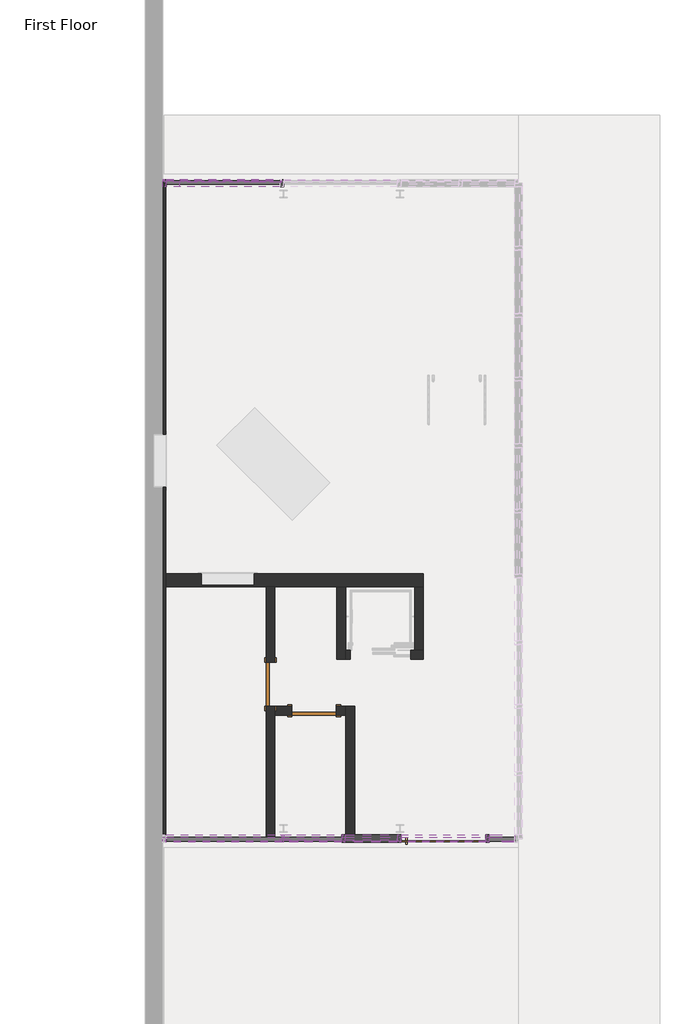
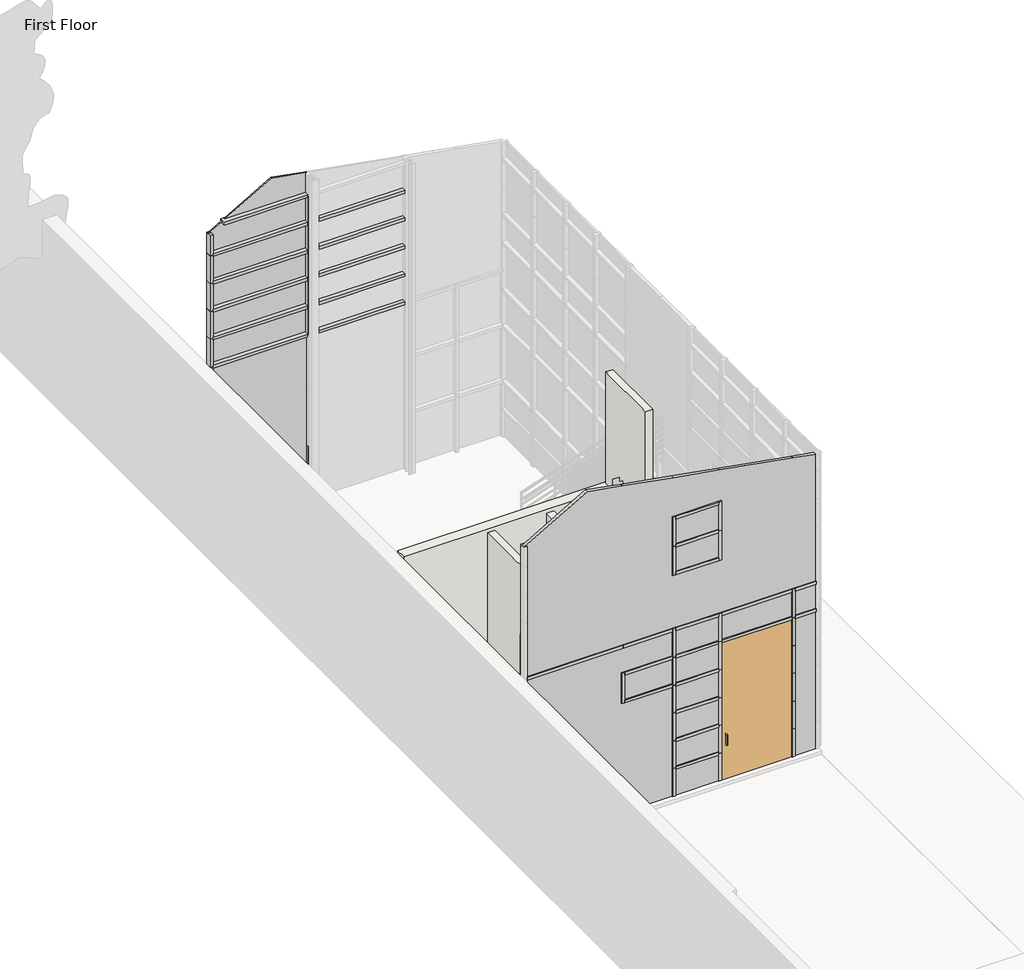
# One storey, part 3 of 9: 65 members, 21 plates, 8 walls, 3 doors.
"""IFC4 building model written with IfcOpenShell, lengths in millimetres."""

from ifc_helpers import new_model, si_unit, origin, place, context, project, spatial, faceted_brep, transform, mapped, element, save
from components import curtain_wall_sgl_glass_curtain_wall_sgl_glass_wood_e1d2974b, door_059fdd7e, rectangular_mullion_rectangular_mullion_1_99cf9c75, rectangular_mullion_rectangular_mullion_1_3a68a7ba, rectangular_mullion_rectangular_mullion_1_0b666476, rectangular_mullion_rectangular_mullion_1_6652bda1, rectangular_mullion_rectangular_mullion_1_04191cc5, rectangular_mullion_rectangular_mullion_1_d7e0bba1, rectangular_mullion_rectangular_mullion_1_6e77e263, rectangular_mullion_rectangular_mullion_1_51170729, rectangular_mullion_rectangular_mullion_1_2b49869a, rectangular_mullion_rectangular_mullion_1_02de63bf, rectangular_mullion_rectangular_mullion_1_47bfaf8a, rectangular_mullion_rectangular_mullion_1_505fbe18, rectangular_mullion_rectangular_mullion_1_75074519, rectangular_mullion_rectangular_mullion_1_ea211896, rectangular_mullion_rectangular_mullion_1_b5f2627a, rectangular_mullion_rectangular_mullion_1_894628af, rectangular_mullion_rectangular_mullion_1_e0487b50, rectangular_mullion_rectangular_mullion_1_73fada49, rectangular_mullion_rectangular_mullion_1_c5a7d1f2, system_panel_glazed_eecd68d4, system_panel_glazed_906e36bb, system_panel_glazed_cde72c19, system_panel_glazed_1e1b58fe, system_panel_glazed_c96e4c1c, system_panel_glazed_f681b886, system_panel_glazed_68a4d442, system_panel_solid_black_577d62a5, system_panel_solid_white_c18d295d, system_panel_solid_white_665c4a0c, system_panel_solid_white_d1d938a1, system_panel_solid_white_siding_d3e9cc3a, system_panel_wood_dark_5486a5ac, system_panel_wood_dark_d58a65b9, system_panel_wood_dark_6d0ec728

model = new_model("IFC4")

# Units and contexts
model_context = context("Model", 3, world=origin())
ifc_project = project(units=[si_unit("LENGTHUNIT", "METRE", prefix="MILLI")], contexts=[model_context])

# Site, building, storey
site = spatial("IfcSite", under=ifc_project)
building = spatial("IfcBuilding", under=site)
storey = spatial("IfcBuildingStorey", under=building, Name="First Floor", Elevation=0.0)

# Doors
placement = place(None, origin())
curtain_wall_sgl_glass_curtain_wall_sgl_glass_wood_shape = curtain_wall_sgl_glass_curtain_wall_sgl_glass_wood_e1d2974b(model_context)
element("IfcDoor", 1, ObjectType="Curtain Wall Sgl Glass : Curtain Wall Sgl Glass - Wood", at=placement, inside=storey, context=model_context, shape_type="MappedRepresentation", body=[
    mapped(curtain_wall_sgl_glass_curtain_wall_sgl_glass_wood_shape, transform((-1283.9651664, 24371.1084583, 0.0), x_axis=(1.0, 0.0, 0.0), y_axis=(0.0, 1.0, 0.0), z_axis=(0.0, 0.0, 1.0))),
])
door_shape = door_059fdd7e(model_context)
element("IfcDoor", 2, ObjectType="Single-Flush : 30\" x 80\"", at=placement, inside=storey, context=model_context, shape_type="MappedRepresentation", body=[
    mapped(door_shape, transform((-4258.9401664, 27025.4084583, 0.0), x_axis=(0.0, 1.0, 0.0), y_axis=(-1.0, 0.0, 0.0), z_axis=(0.0, 0.0, 1.0))),
])
element("IfcDoor", 3, ObjectType="Single-Flush : 30\" x 80\"", at=placement, inside=storey, context=model_context, shape_type="MappedRepresentation", body=[
    mapped(door_shape, transform((-3508.5818331, 26568.2084583, 0.0), x_axis=(-1.0, 0.0, 0.0), y_axis=(0.0, -1.0, 0.0), z_axis=(0.0, 0.0, 1.0))),
])

# Members
rectangular_mullion_rectangular_mullion_1_shape = rectangular_mullion_rectangular_mullion_1_99cf9c75(model_context)
element("IfcMember", 4, ObjectType="Rectangular Mullion : Rectangular Mullion 1", at=placement, inside=storey, context=model_context, shape_type="MappedRepresentation", body=[
    mapped(rectangular_mullion_rectangular_mullion_1_shape, transform((-4062.0901664, 35648.7084583, 3647.5475583), x_axis=(-1.0, 0.0, 0.0), y_axis=(0.0, 1.0, 0.0), z_axis=(0.0, 0.0, -1.0))),
])
rectangular_mullion_rectangular_mullion_1_2_shape = rectangular_mullion_rectangular_mullion_1_3a68a7ba(model_context)
element("IfcMember", 5, ObjectType="Rectangular Mullion : Rectangular Mullion 1", at=placement, inside=storey, context=model_context, shape_type="MappedRepresentation", body=[
    mapped(rectangular_mullion_rectangular_mullion_1_2_shape, transform((-5819.2819941, 35648.7084583, 6705.6), x_axis=(0.0, 0.0, 1.0), y_axis=(0.0, 1.0, 0.0), z_axis=(-1.0, 0.0, 0.0))),
])
rectangular_mullion_rectangular_mullion_1_3_shape = rectangular_mullion_rectangular_mullion_1_0b666476(model_context)
element("IfcMember", 6, ObjectType="Rectangular Mullion : Rectangular Mullion 1", at=placement, inside=storey, context=model_context, shape_type="MappedRepresentation", body=[
    mapped(rectangular_mullion_rectangular_mullion_1_3_shape, transform((-3001.6401664, 24371.1084583, 3048.0), x_axis=(1.0, 0.0, 0.0), y_axis=(0.0, -1.0, 0.0), z_axis=(0.0, 0.0, -1.0))),
])
element("IfcMember", 7, ObjectType="Rectangular Mullion : Rectangular Mullion 1", at=placement, inside=storey, context=model_context, shape_type="MappedRepresentation", body=[
    mapped(rectangular_mullion_rectangular_mullion_1_3_shape, transform((-2042.7901664, 24371.1084583, 3048.0), x_axis=(1.0, 0.0, 0.0), y_axis=(0.0, -1.0, 0.0), z_axis=(0.0, 0.0, -1.0))),
])
element("IfcMember", 8, ObjectType="Rectangular Mullion : Rectangular Mullion 1", at=placement, inside=storey, context=model_context, shape_type="MappedRepresentation", body=[
    mapped(rectangular_mullion_rectangular_mullion_1_3_shape, transform((-525.1401664, 24371.1084583, 3048.0), x_axis=(1.0, 0.0, 0.0), y_axis=(0.0, -1.0, 0.0), z_axis=(0.0, 0.0, -1.0))),
])
rectangular_mullion_rectangular_mullion_1_4_shape = rectangular_mullion_rectangular_mullion_1_6652bda1(model_context)
element("IfcMember", 9, ObjectType="Rectangular Mullion : Rectangular Mullion 1", at=placement, inside=storey, context=model_context, shape_type="MappedRepresentation", body=[
    mapped(rectangular_mullion_rectangular_mullion_1_4_shape, transform((-6113.1401664, 35648.7084583, 2438.4), x_axis=(-1.0, 0.0, 0.0), y_axis=(0.0, 1.0, 0.0), z_axis=(0.0, 0.0, -1.0))),
])
rectangular_mullion_rectangular_mullion_1_5_shape = rectangular_mullion_rectangular_mullion_1_04191cc5(model_context)
element("IfcMember", 10, ObjectType="Rectangular Mullion : Rectangular Mullion 1", at=placement, inside=storey, context=model_context, shape_type="MappedRepresentation", body=[
    mapped(rectangular_mullion_rectangular_mullion_1_5_shape, transform((-6113.1401664, 35648.7084583, 6096.0), x_axis=(-1.0, 0.0, 0.0), y_axis=(0.0, 1.0, 0.0), z_axis=(0.0, 0.0, -1.0))),
])
rectangular_mullion_rectangular_mullion_1_6_shape = rectangular_mullion_rectangular_mullion_1_d7e0bba1(model_context)
element("IfcMember", 11, ObjectType="Rectangular Mullion : Rectangular Mullion 1", at=placement, inside=storey, context=model_context, shape_type="MappedRepresentation", body=[
    mapped(rectangular_mullion_rectangular_mullion_1_6_shape, transform((-6113.1401664, 35648.7084583, 3647.5475583), x_axis=(-1.0, 0.0, 0.0), y_axis=(0.0, 1.0, 0.0), z_axis=(0.0, 0.0, -1.0))),
])
rectangular_mullion_rectangular_mullion_1_7_shape = rectangular_mullion_rectangular_mullion_1_6e77e263(model_context)
element("IfcMember", 12, ObjectType="Rectangular Mullion : Rectangular Mullion 1", at=placement, inside=storey, context=model_context, shape_type="MappedRepresentation", body=[
    mapped(rectangular_mullion_rectangular_mullion_1_7_shape, transform((-2042.7901664, 24371.1084583, 0.0), x_axis=(1.0, 0.0, 0.0), y_axis=(0.0, -1.0, 0.0), z_axis=(0.0, 0.0, -1.0))),
])
element("IfcMember", 13, ObjectType="Rectangular Mullion : Rectangular Mullion 1", at=placement, inside=storey, context=model_context, shape_type="MappedRepresentation", body=[
    mapped(rectangular_mullion_rectangular_mullion_1_7_shape, transform((-3001.6401664, 24371.1084583, 0.0), x_axis=(1.0, 0.0, 0.0), y_axis=(0.0, -1.0, 0.0), z_axis=(0.0, 0.0, -1.0))),
])
element("IfcMember", 14, ObjectType="Rectangular Mullion : Rectangular Mullion 1", at=placement, inside=storey, context=model_context, shape_type="MappedRepresentation", body=[
    mapped(rectangular_mullion_rectangular_mullion_1_7_shape, transform((-4062.0901664, 35648.7084583, 6096.0), x_axis=(-1.0, 0.0, 0.0), y_axis=(0.0, 1.0, 0.0), z_axis=(0.0, 0.0, -1.0))),
])
element("IfcMember", 15, ObjectType="Rectangular Mullion : Rectangular Mullion 1", at=placement, inside=storey, context=model_context, shape_type="MappedRepresentation", body=[
    mapped(rectangular_mullion_rectangular_mullion_1_7_shape, transform((-4062.0901664, 35648.7084583, 4876.8), x_axis=(-1.0, 0.0, 0.0), y_axis=(0.0, 1.0, 0.0), z_axis=(0.0, 0.0, -1.0))),
])
element("IfcMember", 16, ObjectType="Rectangular Mullion : Rectangular Mullion 1", at=placement, inside=storey, context=model_context, shape_type="MappedRepresentation", body=[
    mapped(rectangular_mullion_rectangular_mullion_1_7_shape, transform((-4062.0901664, 35648.7084583, 5486.4), x_axis=(-1.0, 0.0, 0.0), y_axis=(0.0, 1.0, 0.0), z_axis=(0.0, 0.0, -1.0))),
])
element("IfcMember", 17, ObjectType="Rectangular Mullion : Rectangular Mullion 1", at=placement, inside=storey, context=model_context, shape_type="MappedRepresentation", body=[
    mapped(rectangular_mullion_rectangular_mullion_1_7_shape, transform((-4062.0901664, 35648.7084583, 4267.2), x_axis=(-1.0, 0.0, 0.0), y_axis=(0.0, 1.0, 0.0), z_axis=(0.0, 0.0, -1.0))),
])
element("IfcMember", 18, ObjectType="Rectangular Mullion : Rectangular Mullion 1", at=placement, inside=storey, context=model_context, shape_type="MappedRepresentation", body=[
    mapped(rectangular_mullion_rectangular_mullion_1_7_shape, transform((-3001.6401664, 24371.1084583, 2438.4), x_axis=(1.0, 0.0, 0.0), y_axis=(0.0, -1.0, 0.0), z_axis=(0.0, 0.0, -1.0))),
])
element("IfcMember", 19, ObjectType="Rectangular Mullion : Rectangular Mullion 1", at=placement, inside=storey, context=model_context, shape_type="MappedRepresentation", body=[
    mapped(rectangular_mullion_rectangular_mullion_1_7_shape, transform((-2042.7901664, 24371.1084583, 2438.4), x_axis=(1.0, 0.0, 0.0), y_axis=(0.0, -1.0, 0.0), z_axis=(0.0, 0.0, -1.0))),
])
element("IfcMember", 20, ObjectType="Rectangular Mullion : Rectangular Mullion 1", at=placement, inside=storey, context=model_context, shape_type="MappedRepresentation", body=[
    mapped(rectangular_mullion_rectangular_mullion_1_7_shape, transform((-3001.6401664, 24371.1084583, 1219.2), x_axis=(1.0, 0.0, 0.0), y_axis=(0.0, -1.0, 0.0), z_axis=(0.0, 0.0, -1.0))),
])
element("IfcMember", 21, ObjectType="Rectangular Mullion : Rectangular Mullion 1", at=placement, inside=storey, context=model_context, shape_type="MappedRepresentation", body=[
    mapped(rectangular_mullion_rectangular_mullion_1_7_shape, transform((-2042.7901664, 24371.1084583, 1219.2), x_axis=(1.0, 0.0, 0.0), y_axis=(0.0, -1.0, 0.0), z_axis=(0.0, 0.0, -1.0))),
])
element("IfcMember", 22, ObjectType="Rectangular Mullion : Rectangular Mullion 1", at=placement, inside=storey, context=model_context, shape_type="MappedRepresentation", body=[
    mapped(rectangular_mullion_rectangular_mullion_1_7_shape, transform((-3001.6401664, 24371.1084583, 609.6), x_axis=(1.0, 0.0, 0.0), y_axis=(0.0, -1.0, 0.0), z_axis=(0.0, 0.0, -1.0))),
])
element("IfcMember", 23, ObjectType="Rectangular Mullion : Rectangular Mullion 1", at=placement, inside=storey, context=model_context, shape_type="MappedRepresentation", body=[
    mapped(rectangular_mullion_rectangular_mullion_1_7_shape, transform((-2042.7901664, 24371.1084583, 609.6), x_axis=(1.0, 0.0, 0.0), y_axis=(0.0, -1.0, 0.0), z_axis=(0.0, 0.0, -1.0))),
])
element("IfcMember", 24, ObjectType="Rectangular Mullion : Rectangular Mullion 1", at=placement, inside=storey, context=model_context, shape_type="MappedRepresentation", body=[
    mapped(rectangular_mullion_rectangular_mullion_1_7_shape, transform((-3001.6401664, 24371.1084583, 1828.8), x_axis=(1.0, 0.0, 0.0), y_axis=(0.0, -1.0, 0.0), z_axis=(0.0, 0.0, -1.0))),
])
element("IfcMember", 25, ObjectType="Rectangular Mullion : Rectangular Mullion 1", at=placement, inside=storey, context=model_context, shape_type="MappedRepresentation", body=[
    mapped(rectangular_mullion_rectangular_mullion_1_7_shape, transform((-2042.7901664, 24371.1084583, 1828.8), x_axis=(1.0, 0.0, 0.0), y_axis=(0.0, -1.0, 0.0), z_axis=(0.0, 0.0, -1.0))),
])
rectangular_mullion_rectangular_mullion_1_8_shape = rectangular_mullion_rectangular_mullion_1_51170729(model_context)
element("IfcMember", 26, ObjectType="Rectangular Mullion : Rectangular Mullion 1", at=placement, inside=storey, context=model_context, shape_type="MappedRepresentation", body=[
    mapped(rectangular_mullion_rectangular_mullion_1_8_shape, transform((-3001.6401664, 24371.1084583, 4845.05), x_axis=(1.0, 0.0, 0.0), y_axis=(0.0, -1.0, 0.0), z_axis=(0.0, 0.0, -1.0))),
])
element("IfcMember", 27, ObjectType="Rectangular Mullion : Rectangular Mullion 1", at=placement, inside=storey, context=model_context, shape_type="MappedRepresentation", body=[
    mapped(rectangular_mullion_rectangular_mullion_1_8_shape, transform((-2042.7901664, 24371.1084583, 4845.05), x_axis=(1.0, 0.0, 0.0), y_axis=(0.0, -1.0, 0.0), z_axis=(0.0, 0.0, -1.0))),
])
element("IfcMember", 28, ObjectType="Rectangular Mullion : Rectangular Mullion 1", at=placement, inside=storey, context=model_context, shape_type="MappedRepresentation", body=[
    mapped(rectangular_mullion_rectangular_mullion_1_7_shape, transform((-525.1401664, 24371.1084583, 2438.4), x_axis=(1.0, 0.0, 0.0), y_axis=(0.0, -1.0, 0.0), z_axis=(0.0, 0.0, -1.0))),
])
rectangular_mullion_rectangular_mullion_1_9_shape = rectangular_mullion_rectangular_mullion_1_2b49869a(model_context)
element("IfcMember", 29, ObjectType="Rectangular Mullion : Rectangular Mullion 1", at=placement, inside=storey, context=model_context, shape_type="MappedRepresentation", body=[
    mapped(rectangular_mullion_rectangular_mullion_1_9_shape, transform((-4062.0901664, 35648.7084583, 0.0), x_axis=(-1.0, 0.0, 0.0), y_axis=(0.0, 1.0, 0.0), z_axis=(0.0, 0.0, -1.0))),
])
element("IfcMember", 30, ObjectType="Rectangular Mullion : Rectangular Mullion 1", at=placement, inside=storey, context=model_context, shape_type="MappedRepresentation", body=[
    mapped(rectangular_mullion_rectangular_mullion_1_8_shape, transform((-3001.6401664, 24371.1084583, 5486.4), x_axis=(1.0, 0.0, 0.0), y_axis=(0.0, -1.0, 0.0), z_axis=(0.0, 0.0, -1.0))),
])
element("IfcMember", 31, ObjectType="Rectangular Mullion : Rectangular Mullion 1", at=placement, inside=storey, context=model_context, shape_type="MappedRepresentation", body=[
    mapped(rectangular_mullion_rectangular_mullion_1_8_shape, transform((-2042.7901664, 24371.1084583, 5486.4), x_axis=(1.0, 0.0, 0.0), y_axis=(0.0, -1.0, 0.0), z_axis=(0.0, 0.0, -1.0))),
])
rectangular_mullion_rectangular_mullion_1_10_shape = rectangular_mullion_rectangular_mullion_1_02de63bf(model_context)
element("IfcMember", 32, ObjectType="Rectangular Mullion : Rectangular Mullion 1", at=placement, inside=storey, context=model_context, shape_type="MappedRepresentation", body=[
    mapped(rectangular_mullion_rectangular_mullion_1_10_shape, transform((-4062.0901664, 24371.1084583, 2406.65), x_axis=(1.0, 0.0, 0.0), y_axis=(0.0, -1.0, 0.0), z_axis=(0.0, 0.0, -1.0))),
])
element("IfcMember", 33, ObjectType="Rectangular Mullion : Rectangular Mullion 1", at=placement, inside=storey, context=model_context, shape_type="MappedRepresentation", body=[
    mapped(rectangular_mullion_rectangular_mullion_1_7_shape, transform((-525.1401664, 24371.1084583, 1219.2), x_axis=(1.0, 0.0, 0.0), y_axis=(0.0, -1.0, 0.0), z_axis=(0.0, 0.0, -1.0))),
])
element("IfcMember", 34, ObjectType="Rectangular Mullion : Rectangular Mullion 1", at=placement, inside=storey, context=model_context, shape_type="MappedRepresentation", body=[
    mapped(rectangular_mullion_rectangular_mullion_1_7_shape, transform((-525.1401664, 24371.1084583, 609.6), x_axis=(1.0, 0.0, 0.0), y_axis=(0.0, -1.0, 0.0), z_axis=(0.0, 0.0, -1.0))),
])
element("IfcMember", 35, ObjectType="Rectangular Mullion : Rectangular Mullion 1", at=placement, inside=storey, context=model_context, shape_type="MappedRepresentation", body=[
    mapped(rectangular_mullion_rectangular_mullion_1_7_shape, transform((-525.1401664, 24371.1084583, 1828.8), x_axis=(1.0, 0.0, 0.0), y_axis=(0.0, -1.0, 0.0), z_axis=(0.0, 0.0, -1.0))),
])
element("IfcMember", 36, ObjectType="Rectangular Mullion : Rectangular Mullion 1", at=placement, inside=storey, context=model_context, shape_type="MappedRepresentation", body=[
    mapped(rectangular_mullion_rectangular_mullion_1_7_shape, transform((-525.1401664, 24371.1084583, 0.0), x_axis=(1.0, 0.0, 0.0), y_axis=(0.0, -1.0, 0.0), z_axis=(0.0, 0.0, -1.0))),
])
rectangular_mullion_rectangular_mullion_1_11_shape = rectangular_mullion_rectangular_mullion_1_47bfaf8a(model_context)
element("IfcMember", 37, ObjectType="Rectangular Mullion : Rectangular Mullion 1", at=placement, inside=storey, context=model_context, shape_type="MappedRepresentation", body=[
    mapped(rectangular_mullion_rectangular_mullion_1_11_shape, transform((-6113.1401664, 35648.7084583, 4267.2), x_axis=(-1.0, 0.0, 0.0), y_axis=(0.0, 1.0, 0.0), z_axis=(0.0, 0.0, -1.0))),
])
element("IfcMember", 38, ObjectType="Rectangular Mullion : Rectangular Mullion 1", at=placement, inside=storey, context=model_context, shape_type="MappedRepresentation", body=[
    mapped(rectangular_mullion_rectangular_mullion_1_11_shape, transform((-6113.1401664, 35648.7084583, 5486.4), x_axis=(-1.0, 0.0, 0.0), y_axis=(0.0, 1.0, 0.0), z_axis=(0.0, 0.0, -1.0))),
])
element("IfcMember", 39, ObjectType="Rectangular Mullion : Rectangular Mullion 1", at=placement, inside=storey, context=model_context, shape_type="MappedRepresentation", body=[
    mapped(rectangular_mullion_rectangular_mullion_1_11_shape, transform((-6113.1401664, 35648.7084583, 4876.8), x_axis=(-1.0, 0.0, 0.0), y_axis=(0.0, 1.0, 0.0), z_axis=(0.0, 0.0, -1.0))),
])
rectangular_mullion_rectangular_mullion_1_12_shape = rectangular_mullion_rectangular_mullion_1_505fbe18(model_context)
element("IfcMember", 40, ObjectType="Rectangular Mullion : Rectangular Mullion 1", at=placement, inside=storey, context=model_context, shape_type="MappedRepresentation", body=[
    mapped(rectangular_mullion_rectangular_mullion_1_12_shape, transform((-55.2401664, 24371.1084583, 3647.5475583), x_axis=(0.0, 0.0, 1.0), y_axis=(0.0, -1.0, 0.0), z_axis=(1.0, 0.0, 0.0))),
])
element("IfcMember", 41, ObjectType="Rectangular Mullion : Rectangular Mullion 1", at=placement, inside=storey, context=model_context, shape_type="MappedRepresentation", body=[
    mapped(rectangular_mullion_rectangular_mullion_1_12_shape, transform((-55.2401664, 24371.1084583, 3048.0), x_axis=(0.0, 0.0, 1.0), y_axis=(0.0, -1.0, 0.0), z_axis=(1.0, 0.0, 0.0))),
])
rectangular_mullion_rectangular_mullion_1_13_shape = rectangular_mullion_rectangular_mullion_1_75074519(model_context)
element("IfcMember", 42, ObjectType="Rectangular Mullion : Rectangular Mullion 1", at=placement, inside=storey, context=model_context, shape_type="MappedRepresentation", body=[
    mapped(rectangular_mullion_rectangular_mullion_1_13_shape, transform((-6113.1401664, 35648.7084583, 1219.2), x_axis=(-1.0, 0.0, 0.0), y_axis=(0.0, 1.0, 0.0), z_axis=(0.0, 0.0, -1.0))),
])
element("IfcMember", 43, ObjectType="Rectangular Mullion : Rectangular Mullion 1", at=placement, inside=storey, context=model_context, shape_type="MappedRepresentation", body=[
    mapped(rectangular_mullion_rectangular_mullion_1_13_shape, transform((-6113.1401664, 35648.7084583, 0.0), x_axis=(-1.0, 0.0, 0.0), y_axis=(0.0, 1.0, 0.0), z_axis=(0.0, 0.0, -1.0))),
])
rectangular_mullion_rectangular_mullion_1_14_shape = rectangular_mullion_rectangular_mullion_1_ea211896(model_context)
element("IfcMember", 44, ObjectType="Rectangular Mullion : Rectangular Mullion 1", at=placement, inside=storey, context=model_context, shape_type="MappedRepresentation", body=[
    mapped(rectangular_mullion_rectangular_mullion_1_14_shape, transform((-4062.0901664, 24371.1084583, 3647.5475583), x_axis=(0.0, 0.0, 1.0), y_axis=(0.0, -1.0, 0.0), z_axis=(1.0, 0.0, 0.0))),
])
rectangular_mullion_rectangular_mullion_1_15_shape = rectangular_mullion_rectangular_mullion_1_b5f2627a(model_context)
element("IfcMember", 45, ObjectType="Rectangular Mullion : Rectangular Mullion 1", at=placement, inside=storey, context=model_context, shape_type="MappedRepresentation", body=[
    mapped(rectangular_mullion_rectangular_mullion_1_15_shape, transform((-3033.3901664, 24371.1084583, 3647.5475583), x_axis=(0.0, 0.0, 1.0), y_axis=(0.0, -1.0, 0.0), z_axis=(1.0, 0.0, 0.0))),
])
rectangular_mullion_rectangular_mullion_1_16_shape = rectangular_mullion_rectangular_mullion_1_894628af(model_context)
element("IfcMember", 46, ObjectType="Rectangular Mullion : Rectangular Mullion 1", at=placement, inside=storey, context=model_context, shape_type="MappedRepresentation", body=[
    mapped(rectangular_mullion_rectangular_mullion_1_16_shape, transform((-556.8901664, 24371.1084583, 3647.5475583), x_axis=(0.0, 0.0, 1.0), y_axis=(0.0, -1.0, 0.0), z_axis=(1.0, 0.0, 0.0))),
])
element("IfcMember", 47, ObjectType="Rectangular Mullion : Rectangular Mullion 1", at=placement, inside=storey, context=model_context, shape_type="MappedRepresentation", body=[
    mapped(rectangular_mullion_rectangular_mullion_1_16_shape, transform((-556.8901664, 24371.1084583, 3048.0), x_axis=(0.0, 0.0, 1.0), y_axis=(0.0, -1.0, 0.0), z_axis=(1.0, 0.0, 0.0))),
])
rectangular_mullion_rectangular_mullion_1_17_shape = rectangular_mullion_rectangular_mullion_1_e0487b50(model_context)
element("IfcMember", 48, ObjectType="Rectangular Mullion : Rectangular Mullion 1", at=placement, inside=storey, context=model_context, shape_type="MappedRepresentation", body=[
    mapped(rectangular_mullion_rectangular_mullion_1_17_shape, transform((-2074.5401664, 24371.1084583, 3647.5475583), x_axis=(0.0, 0.0, 1.0), y_axis=(0.0, -1.0, 0.0), z_axis=(1.0, 0.0, 0.0))),
])
element("IfcMember", 49, ObjectType="Rectangular Mullion : Rectangular Mullion 1", at=placement, inside=storey, context=model_context, shape_type="MappedRepresentation", body=[
    mapped(rectangular_mullion_rectangular_mullion_1_17_shape, transform((-2074.5401664, 24371.1084583, 2438.4), x_axis=(0.0, 0.0, 1.0), y_axis=(0.0, -1.0, 0.0), z_axis=(1.0, 0.0, 0.0))),
])
element("IfcMember", 50, ObjectType="Rectangular Mullion : Rectangular Mullion 1", at=placement, inside=storey, context=model_context, shape_type="MappedRepresentation", body=[
    mapped(rectangular_mullion_rectangular_mullion_1_17_shape, transform((-2074.5401664, 24371.1084583, 3048.0), x_axis=(0.0, 0.0, 1.0), y_axis=(0.0, -1.0, 0.0), z_axis=(1.0, 0.0, 0.0))),
])
element("IfcMember", 51, ObjectType="Rectangular Mullion : Rectangular Mullion 1", at=placement, inside=storey, context=model_context, shape_type="MappedRepresentation", body=[
    mapped(rectangular_mullion_rectangular_mullion_1_17_shape, transform((-2074.5401664, 24371.1084583, 1219.2), x_axis=(0.0, 0.0, 1.0), y_axis=(0.0, -1.0, 0.0), z_axis=(1.0, 0.0, 0.0))),
])
element("IfcMember", 52, ObjectType="Rectangular Mullion : Rectangular Mullion 1", at=placement, inside=storey, context=model_context, shape_type="MappedRepresentation", body=[
    mapped(rectangular_mullion_rectangular_mullion_1_17_shape, transform((-2074.5401664, 24371.1084583, 609.6), x_axis=(0.0, 0.0, 1.0), y_axis=(0.0, -1.0, 0.0), z_axis=(1.0, 0.0, 0.0))),
])
element("IfcMember", 53, ObjectType="Rectangular Mullion : Rectangular Mullion 1", at=placement, inside=storey, context=model_context, shape_type="MappedRepresentation", body=[
    mapped(rectangular_mullion_rectangular_mullion_1_17_shape, transform((-2074.5401664, 24371.1084583, 1828.8), x_axis=(0.0, 0.0, 1.0), y_axis=(0.0, -1.0, 0.0), z_axis=(1.0, 0.0, 0.0))),
])
element("IfcMember", 54, ObjectType="Rectangular Mullion : Rectangular Mullion 1", at=placement, inside=storey, context=model_context, shape_type="MappedRepresentation", body=[
    mapped(rectangular_mullion_rectangular_mullion_1_17_shape, transform((-2074.5401664, 24371.1084583, 6096.0), x_axis=(0.0, 0.0, 1.0), y_axis=(0.0, -1.0, 0.0), z_axis=(1.0, 0.0, 0.0))),
])
element("IfcMember", 55, ObjectType="Rectangular Mullion : Rectangular Mullion 1", at=placement, inside=storey, context=model_context, shape_type="MappedRepresentation", body=[
    mapped(rectangular_mullion_rectangular_mullion_1_17_shape, transform((-2074.5401664, 24371.1084583, 4876.8), x_axis=(0.0, 0.0, 1.0), y_axis=(0.0, -1.0, 0.0), z_axis=(1.0, 0.0, 0.0))),
])
element("IfcMember", 56, ObjectType="Rectangular Mullion : Rectangular Mullion 1", at=placement, inside=storey, context=model_context, shape_type="MappedRepresentation", body=[
    mapped(rectangular_mullion_rectangular_mullion_1_17_shape, transform((-2074.5401664, 24371.1084583, 5486.4), x_axis=(0.0, 0.0, 1.0), y_axis=(0.0, -1.0, 0.0), z_axis=(1.0, 0.0, 0.0))),
])
rectangular_mullion_rectangular_mullion_1_18_shape = rectangular_mullion_rectangular_mullion_1_73fada49(model_context)
element("IfcMember", 57, ObjectType="Rectangular Mullion : Rectangular Mullion 1", at=placement, inside=storey, context=model_context, shape_type="MappedRepresentation", body=[
    mapped(rectangular_mullion_rectangular_mullion_1_18_shape, transform((-3033.3901664, 24371.1084583, 2438.4), x_axis=(0.0, 0.0, 1.0), y_axis=(0.0, -1.0, 0.0), z_axis=(1.0, 0.0, 0.0))),
])
element("IfcMember", 58, ObjectType="Rectangular Mullion : Rectangular Mullion 1", at=placement, inside=storey, context=model_context, shape_type="MappedRepresentation", body=[
    mapped(rectangular_mullion_rectangular_mullion_1_18_shape, transform((-3033.3901664, 24371.1084583, 3048.0), x_axis=(0.0, 0.0, 1.0), y_axis=(0.0, -1.0, 0.0), z_axis=(1.0, 0.0, 0.0))),
])
rectangular_mullion_rectangular_mullion_1_19_shape = rectangular_mullion_rectangular_mullion_1_c5a7d1f2(model_context)
element("IfcMember", 59, ObjectType="Rectangular Mullion : Rectangular Mullion 1", at=placement, inside=storey, context=model_context, shape_type="MappedRepresentation", body=[
    mapped(rectangular_mullion_rectangular_mullion_1_19_shape, transform((-4030.3401664, 35648.7084583, 3647.5475583), x_axis=(0.0, 0.0, 1.0), y_axis=(0.0, 1.0, 0.0), z_axis=(-1.0, 0.0, 0.0))),
])
element("IfcMember", 60, ObjectType="Rectangular Mullion : Rectangular Mullion 1", at=placement, inside=storey, context=model_context, shape_type="MappedRepresentation", body=[
    mapped(rectangular_mullion_rectangular_mullion_1_19_shape, transform((-6049.6401664, 35648.7084583, 3647.5475583), x_axis=(0.0, 0.0, 1.0), y_axis=(0.0, 1.0, 0.0), z_axis=(-1.0, 0.0, 0.0))),
])
element("IfcMember", 61, ObjectType="Rectangular Mullion : Rectangular Mullion 1", at=placement, inside=storey, context=model_context, shape_type="MappedRepresentation", body=[
    mapped(rectangular_mullion_rectangular_mullion_1_19_shape, transform((-4030.3401664, 35648.7084583, 6096.0), x_axis=(0.0, 0.0, 1.0), y_axis=(0.0, 1.0, 0.0), z_axis=(-1.0, 0.0, 0.0))),
])
element("IfcMember", 62, ObjectType="Rectangular Mullion : Rectangular Mullion 1", at=placement, inside=storey, context=model_context, shape_type="MappedRepresentation", body=[
    mapped(rectangular_mullion_rectangular_mullion_1_19_shape, transform((-6049.6401664, 35648.7084583, 6096.0), x_axis=(0.0, 0.0, 1.0), y_axis=(0.0, 1.0, 0.0), z_axis=(-1.0, 0.0, 0.0))),
])
element("IfcMember", 63, ObjectType="Rectangular Mullion : Rectangular Mullion 1", at=placement, inside=storey, context=model_context, shape_type="MappedRepresentation", body=[
    mapped(rectangular_mullion_rectangular_mullion_1_19_shape, transform((-4030.3401664, 35648.7084583, 4876.8), x_axis=(0.0, 0.0, 1.0), y_axis=(0.0, 1.0, 0.0), z_axis=(-1.0, 0.0, 0.0))),
])
element("IfcMember", 64, ObjectType="Rectangular Mullion : Rectangular Mullion 1", at=placement, inside=storey, context=model_context, shape_type="MappedRepresentation", body=[
    mapped(rectangular_mullion_rectangular_mullion_1_19_shape, transform((-6049.6401664, 35648.7084583, 4876.8), x_axis=(0.0, 0.0, 1.0), y_axis=(0.0, 1.0, 0.0), z_axis=(-1.0, 0.0, 0.0))),
])
element("IfcMember", 65, ObjectType="Rectangular Mullion : Rectangular Mullion 1", at=placement, inside=storey, context=model_context, shape_type="MappedRepresentation", body=[
    mapped(rectangular_mullion_rectangular_mullion_1_19_shape, transform((-6049.6401664, 35648.7084583, 5486.4), x_axis=(0.0, 0.0, 1.0), y_axis=(0.0, 1.0, 0.0), z_axis=(-1.0, 0.0, 0.0))),
])
element("IfcMember", 66, ObjectType="Rectangular Mullion : Rectangular Mullion 1", at=placement, inside=storey, context=model_context, shape_type="MappedRepresentation", body=[
    mapped(rectangular_mullion_rectangular_mullion_1_19_shape, transform((-6049.6401664, 35648.7084583, 4267.2), x_axis=(0.0, 0.0, 1.0), y_axis=(0.0, 1.0, 0.0), z_axis=(-1.0, 0.0, 0.0))),
])
element("IfcMember", 67, ObjectType="Rectangular Mullion : Rectangular Mullion 1", at=placement, inside=storey, context=model_context, shape_type="MappedRepresentation", body=[
    mapped(rectangular_mullion_rectangular_mullion_1_19_shape, transform((-4030.3401664, 35648.7084583, 5486.4), x_axis=(0.0, 0.0, 1.0), y_axis=(0.0, 1.0, 0.0), z_axis=(-1.0, 0.0, 0.0))),
])
element("IfcMember", 68, ObjectType="Rectangular Mullion : Rectangular Mullion 1", at=placement, inside=storey, context=model_context, shape_type="MappedRepresentation", body=[
    mapped(rectangular_mullion_rectangular_mullion_1_19_shape, transform((-4030.3401664, 35648.7084583, 4267.2), x_axis=(0.0, 0.0, 1.0), y_axis=(0.0, 1.0, 0.0), z_axis=(-1.0, 0.0, 0.0))),
])

# Plates
system_panel_glazed_shape = system_panel_glazed_eecd68d4(model_context)
element("IfcPlate", 69, ObjectType="System Panel : Glazed", at=placement, inside=storey, context=model_context, shape_type="MappedRepresentation", body=[
    mapped(system_panel_glazed_shape, transform((-5071.7401664, 35648.7084583, 3679.2975583), x_axis=(-1.0, 0.0, 0.0), y_axis=(0.0, -1.0, 0.0), z_axis=(0.0, 0.0, 1.0))),
])
system_panel_glazed_2_shape = system_panel_glazed_906e36bb(model_context)
element("IfcPlate", 70, ObjectType="System Panel : Glazed", at=placement, inside=storey, context=model_context, shape_type="MappedRepresentation", body=[
    mapped(system_panel_glazed_2_shape, transform((-5103.4901664, 35648.7084583, 6127.75), x_axis=(-1.0, 0.0, 0.0), y_axis=(0.0, -1.0, 0.0), z_axis=(0.0, 0.0, 1.0))),
])
system_panel_glazed_3_shape = system_panel_glazed_cde72c19(model_context)
element("IfcPlate", 71, ObjectType="System Panel : Glazed", at=placement, inside=storey, context=model_context, shape_type="MappedRepresentation", body=[
    mapped(system_panel_glazed_3_shape, transform((-4913.1897737, 35648.7084583, 6737.35), x_axis=(-1.0, 0.0, 0.0), y_axis=(0.0, -1.0, 0.0), z_axis=(0.0, 0.0, 1.0))),
])
system_panel_glazed_4_shape = system_panel_glazed_1e1b58fe(model_context)
element("IfcPlate", 72, ObjectType="System Panel : Glazed", at=placement, inside=storey, context=model_context, shape_type="MappedRepresentation", body=[
    mapped(system_panel_glazed_4_shape, transform((-2522.2151664, 24371.1084583, 3079.75), x_axis=(1.0, 0.0, 0.0), y_axis=(0.0, 1.0, 0.0), z_axis=(0.0, 0.0, 1.0))),
])
system_panel_glazed_5_shape = system_panel_glazed_c96e4c1c(model_context)
element("IfcPlate", 73, ObjectType="System Panel : Glazed", at=placement, inside=storey, context=model_context, shape_type="MappedRepresentation", body=[
    mapped(system_panel_glazed_5_shape, transform((-3531.8651664, 24371.1084583, 2470.15), x_axis=(1.0, 0.0, 0.0), y_axis=(0.0, 1.0, 0.0), z_axis=(0.0, 0.0, 1.0))),
])
system_panel_glazed_6_shape = system_panel_glazed_f681b886(model_context)
element("IfcPlate", 74, ObjectType="System Panel : Glazed", at=placement, inside=storey, context=model_context, shape_type="MappedRepresentation", body=[
    mapped(system_panel_glazed_6_shape, transform((-2522.2151664, 24371.1084583, 2470.15), x_axis=(1.0, 0.0, 0.0), y_axis=(0.0, 1.0, 0.0), z_axis=(0.0, 0.0, 1.0))),
])
element("IfcPlate", 75, ObjectType="System Panel : Glazed", at=placement, inside=storey, context=model_context, shape_type="MappedRepresentation", body=[
    mapped(system_panel_glazed_6_shape, transform((-2522.2151664, 24371.1084583, 1860.55), x_axis=(1.0, 0.0, 0.0), y_axis=(0.0, 1.0, 0.0), z_axis=(0.0, 0.0, 1.0))),
])
element("IfcPlate", 76, ObjectType="System Panel : Glazed", at=placement, inside=storey, context=model_context, shape_type="MappedRepresentation", body=[
    mapped(system_panel_glazed_6_shape, transform((-2522.2151664, 24371.1084583, 4908.55), x_axis=(1.0, 0.0, 0.0), y_axis=(0.0, 1.0, 0.0), z_axis=(0.0, 0.0, 1.0))),
])
element("IfcPlate", 77, ObjectType="System Panel : Glazed", at=placement, inside=storey, context=model_context, shape_type="MappedRepresentation", body=[
    mapped(system_panel_glazed_6_shape, transform((-2522.2151664, 24371.1084583, 5518.15), x_axis=(1.0, 0.0, 0.0), y_axis=(0.0, 1.0, 0.0), z_axis=(0.0, 0.0, 1.0))),
])
system_panel_glazed_7_shape = system_panel_glazed_68a4d442(model_context)
element("IfcPlate", 78, ObjectType="System Panel : Glazed", at=placement, inside=storey, context=model_context, shape_type="MappedRepresentation", body=[
    mapped(system_panel_glazed_7_shape, transform((-5071.7401664, 35648.7084583, 4908.55), x_axis=(-1.0, 0.0, 0.0), y_axis=(0.0, -1.0, 0.0), z_axis=(0.0, 0.0, 1.0))),
])
element("IfcPlate", 79, ObjectType="System Panel : Glazed", at=placement, inside=storey, context=model_context, shape_type="MappedRepresentation", body=[
    mapped(system_panel_glazed_7_shape, transform((-5071.7401664, 35648.7084583, 5518.15), x_axis=(-1.0, 0.0, 0.0), y_axis=(0.0, -1.0, 0.0), z_axis=(0.0, 0.0, 1.0))),
])
element("IfcPlate", 80, ObjectType="System Panel : Glazed", at=placement, inside=storey, context=model_context, shape_type="MappedRepresentation", body=[
    mapped(system_panel_glazed_7_shape, transform((-5071.7401664, 35648.7084583, 4298.95), x_axis=(-1.0, 0.0, 0.0), y_axis=(0.0, -1.0, 0.0), z_axis=(0.0, 0.0, 1.0))),
])
system_panel_solid_black_shape = system_panel_solid_black_577d62a5(model_context)
element("IfcPlate", 81, ObjectType="System Panel : Solid - Black", at=placement, inside=storey, context=model_context, shape_type="MappedRepresentation", body=[
    mapped(system_panel_solid_black_shape, transform((-2522.2151664, 24371.1084583, 1250.95), x_axis=(1.0, 0.0, 0.0), y_axis=(0.0, 1.0, 0.0), z_axis=(0.0, 0.0, 1.0))),
])
system_panel_solid_white_shape = system_panel_solid_white_c18d295d(model_context)
element("IfcPlate", 82, ObjectType="System Panel : Solid - White", at=placement, inside=storey, context=model_context, shape_type="MappedRepresentation", body=[
    mapped(system_panel_solid_white_shape, transform((-4541.5151664, 24371.1084583, 0.0), x_axis=(1.0, 0.0, 0.0), y_axis=(0.0, 1.0, 0.0), z_axis=(0.0, 0.0, 1.0))),
])
system_panel_solid_white_2_shape = system_panel_solid_white_665c4a0c(model_context)
element("IfcPlate", 83, ObjectType="System Panel : Solid - White", at=placement, inside=storey, context=model_context, shape_type="MappedRepresentation", body=[
    mapped(system_panel_solid_white_2_shape, transform((-5071.7401664, 35648.7084583, 0.0), x_axis=(-1.0, 0.0, 0.0), y_axis=(0.0, -1.0, 0.0), z_axis=(0.0, 0.0, 1.0))),
])
system_panel_solid_white_3_shape = system_panel_solid_white_d1d938a1(model_context)
element("IfcPlate", 84, ObjectType="System Panel : Solid - White", at=placement, inside=storey, context=model_context, shape_type="MappedRepresentation", body=[
    mapped(system_panel_solid_white_3_shape, transform((-2522.2151664, 24371.1084583, 0.0), x_axis=(1.0, 0.0, 0.0), y_axis=(0.0, 1.0, 0.0), z_axis=(0.0, 0.0, 1.0))),
])
element("IfcPlate", 85, ObjectType="System Panel : Solid - White", at=placement, inside=storey, context=model_context, shape_type="MappedRepresentation", body=[
    mapped(system_panel_solid_black_shape, transform((-2522.2151664, 24371.1084583, 641.35), x_axis=(1.0, 0.0, 0.0), y_axis=(0.0, 1.0, 0.0), z_axis=(0.0, 0.0, 1.0))),
])
system_panel_solid_white_siding_shape = system_panel_solid_white_siding_d3e9cc3a(model_context)
element("IfcPlate", 86, ObjectType="System Panel : Solid - White Siding", at=placement, inside=storey, context=model_context, shape_type="MappedRepresentation", body=[
    mapped(system_panel_solid_white_siding_shape, transform((-3084.1901664, 24371.1084583, 3679.2975583), x_axis=(1.0, 0.0, 0.0), y_axis=(0.0, 1.0, 0.0), z_axis=(0.0, 0.0, 1.0))),
])
system_panel_wood_dark_shape = system_panel_wood_dark_5486a5ac(model_context)
element("IfcPlate", 87, ObjectType="System Panel : Wood - Dark", at=placement, inside=storey, context=model_context, shape_type="MappedRepresentation", body=[
    mapped(system_panel_wood_dark_shape, transform((-1283.9651664, 24371.1084583, 3079.75), x_axis=(1.0, 0.0, 0.0), y_axis=(0.0, 1.0, 0.0), z_axis=(0.0, 0.0, 1.0))),
])
system_panel_wood_dark_2_shape = system_panel_wood_dark_d58a65b9(model_context)
element("IfcPlate", 88, ObjectType="System Panel : Wood - Dark", at=placement, inside=storey, context=model_context, shape_type="MappedRepresentation", body=[
    mapped(system_panel_wood_dark_2_shape, transform((-274.3151664, 24371.1084583, 3079.75), x_axis=(1.0, 0.0, 0.0), y_axis=(0.0, 1.0, 0.0), z_axis=(0.0, 0.0, 1.0))),
])
system_panel_wood_dark_3_shape = system_panel_wood_dark_6d0ec728(model_context)
element("IfcPlate", 89, ObjectType="System Panel : Wood - Dark", at=placement, inside=storey, context=model_context, shape_type="MappedRepresentation", body=[
    mapped(system_panel_wood_dark_3_shape, transform((-274.3151664, 24371.1084583, 0.0), x_axis=(1.0, 0.0, 0.0), y_axis=(0.0, 1.0, 0.0), z_axis=(0.0, 0.0, 1.0))),
])

# Walls
element("IfcWall", 90, ObjectType="Generic Wall - 6\"", at=placement, inside=storey, context=model_context, shape_type="Brep", body=[
    faceted_brep([(-4182.7401664, 27406.4084583, 2032.0), (-4182.7401664, 27406.4084583, 0.0), (-4182.7401664, 28701.0977925, 0.0), (-4182.7401664, 28701.0977925, 3581.4), (-4182.7401664, 26644.4084583, 3581.4), (-4182.7401664, 26492.0084583, 3581.4), (-4182.7401664, 24390.1584583, 3581.4), (-4182.7401664, 24390.1584583, 0.0), (-4182.7401664, 26492.0084583, 0.0), (-4182.7401664, 26644.4084583, 0.0), (-4182.7401664, 26644.4084583, 2032.0), (-4335.1401664, 28701.0977925, 0.0), (-4335.1401664, 27406.4084583, 0.0), (-4335.1401664, 27406.4084583, 2032.0), (-4335.1401664, 26644.4084583, 2032.0), (-4335.1401664, 26644.4084583, 0.0), (-4335.1401664, 24390.1584583, 0.0), (-4335.1401664, 24390.1584583, 3581.4), (-4335.1401664, 28701.0977925, 3581.4)], [[[0, 1, 2, 3, 4, 5, 6, 7, 8, 9, 10]], [[11, 12, 13, 14, 15, 16, 17, 18]], [[2, 1, 12, 11]], [[9, 8, 7, 16, 15]], [[7, 6, 17, 16]], [[3, 2, 11, 18]], [[13, 12, 1, 0]], [[14, 13, 0, 10]], [[15, 14, 10, 9]], [[6, 5, 4, 3, 18, 17]]]),
])
element("IfcWall", 91, ObjectType="Generic Wall - 6\"", at=placement, inside=storey, context=model_context, shape_type="Brep", body=[
    faceted_brep([(-2811.1401664, 24434.6084583, 0.0), (-2811.1401664, 26644.4084583, 0.0), (-2811.1401664, 26644.4084583, 3581.4), (-2811.1401664, 24434.6084583, 3581.4), (-2963.5401664, 24434.6084583, 0.0), (-2963.5401664, 24434.6084583, 3581.4), (-2963.5401664, 26492.0084583, 3581.4), (-2963.5401664, 26644.4084583, 3581.4), (-2963.5401664, 26644.4084583, 0.0), (-2963.5401664, 26492.0084583, 0.0)], [[[0, 1, 2, 3]], [[4, 5, 6, 7, 8, 9]], [[1, 0, 4, 9, 8]], [[0, 3, 5, 4]], [[2, 1, 8, 7]], [[3, 2, 7, 6, 5]]]),
])
element("IfcWall", 92, ObjectType="Generic Wall - 6\"", at=placement, inside=storey, context=model_context, shape_type="Brep", body=[
    faceted_brep([(-3889.5818331, 26644.4084583, 2032.0), (-3889.5818331, 26644.4084583, 0.0), (-4182.7401664, 26644.4084583, 0.0), (-4182.7401664, 26644.4084583, 2032.0), (-4182.7401664, 26644.4084583, 3581.4), (-2963.5401664, 26644.4084583, 3581.4), (-2963.5401664, 26644.4084583, 0.0), (-3127.5818331, 26644.4084583, 0.0), (-3127.5818331, 26644.4084583, 2032.0), (-4182.7401664, 26492.0084583, 0.0), (-3889.5818331, 26492.0084583, 0.0), (-3889.5818331, 26492.0084583, 2032.0), (-3127.5818331, 26492.0084583, 2032.0), (-3127.5818331, 26492.0084583, 0.0), (-2963.5401664, 26492.0084583, 0.0), (-2963.5401664, 26492.0084583, 3581.4), (-4182.7401664, 26492.0084583, 3581.4)], [[[0, 1, 2, 3, 4, 5, 6, 7, 8]], [[9, 10, 11, 12, 13, 14, 15, 16]], [[7, 6, 14, 13]], [[2, 1, 10, 9]], [[6, 5, 15, 14]], [[4, 3, 2, 9, 16]], [[11, 10, 1, 0]], [[12, 11, 0, 8]], [[13, 12, 8, 7]], [[5, 4, 16, 15]]]),
])
element("IfcWall", 93, ObjectType="Generic Wall - 6\"", at=placement, inside=storey, context=model_context, shape_type="Brep", body=[
    faceted_brep([(-2963.5401664, 27458.7977925, 0.0), (-2963.5401664, 27611.1977925, 0.0), (-2963.5401664, 28701.0977925, 0.0), (-2963.5401664, 28701.0977925, 3581.4), (-2963.5401664, 27611.1977925, 3581.4), (-2963.5401664, 27458.7977925, 3581.4), (-3115.9401664, 27458.7977925, 0.0), (-3115.9401664, 27458.7977925, 3581.4), (-3115.9401664, 28701.0977925, 3581.4), (-3115.9401664, 28701.0977925, 0.0)], [[[0, 1, 2, 3, 4, 5]], [[6, 7, 8, 9]], [[2, 1, 0, 6, 9]], [[3, 2, 9, 8]], [[0, 5, 7, 6]], [[5, 4, 3, 8, 7]]]),
])
element("IfcWall", 94, ObjectType="Generic Wall - 6\"", at=placement, inside=storey, context=model_context, shape_type="Brep", body=[
    faceted_brep([(-1626.1401664, 27458.7977925, 0.0), (-1626.1401664, 27458.7977925, 3581.4), (-2963.5401664, 27458.7977925, 3581.4), (-2963.5401664, 27458.7977925, 0.0), (-2883.9813058, 27458.7977925, 0.0), (-2883.9813058, 27458.7977925, 2133.6), (-1841.3924851, 27458.7977925, 2133.6), (-1841.3924851, 27458.7977925, 0.0), (-1626.1401664, 27611.1977925, 3581.4), (-1626.1401664, 27611.1977925, 0.0), (-1778.5401664, 27611.1977925, 0.0), (-1841.3924851, 27611.1977925, 0.0), (-1841.3924851, 27611.1977925, 2133.6), (-2883.9813058, 27611.1977925, 2133.6), (-2883.9813058, 27611.1977925, 0.0), (-2963.5401664, 27611.1977925, 0.0), (-2963.5401664, 27611.1977925, 3581.4), (-1778.5401664, 27611.1977925, 3581.4)], [[[0, 1, 2, 3, 4, 5, 6, 7]], [[8, 9, 10, 11, 12, 13, 14, 15, 16, 17]], [[3, 15, 14, 4]], [[9, 0, 7, 11, 10]], [[3, 2, 16, 15]], [[2, 1, 8, 17, 16]], [[1, 0, 9, 8]], [[5, 13, 12, 6]], [[13, 5, 4, 14]], [[6, 12, 11, 7]]]),
])
element("IfcWall", 95, ObjectType="Generic Wall - 6\"", at=placement, inside=storey, context=model_context, shape_type="Brep", body=[
    faceted_brep([(-1626.1401664, 27611.1977925, 0.0), (-1626.1401664, 28701.0977925, 0.0), (-1626.1401664, 28701.0977925, 3657.6), (-1626.1401664, 28891.5977925, 3657.6), (-1626.1401664, 28891.5977925, 6096.0), (-1626.1401664, 27458.7977925, 6096.0), (-1626.1401664, 27458.7977925, 3657.6), (-1626.1401664, 27611.1977925, 3657.6), (-1626.1401664, 27611.1977925, 3581.4), (-1778.5401664, 27611.1977925, 0.0), (-1778.5401664, 27611.1977925, 3657.6), (-1778.5401664, 27458.7977925, 3657.6), (-1778.5401664, 27458.7977925, 6096.0), (-1778.5401664, 27611.1977925, 6096.0), (-1778.5401664, 28739.1977925, 6096.0), (-1778.5401664, 28891.5977925, 6096.0), (-1778.5401664, 28891.5977925, 3657.6), (-1778.5401664, 28739.1977925, 3657.6), (-1778.5401664, 28701.0977925, 3657.6), (-1778.5401664, 28701.0977925, 0.0)], [[[0, 1, 2, 3, 4, 5, 6, 7, 8]], [[9, 10, 11, 12, 13, 14, 15, 16, 17, 18, 19]], [[1, 0, 9, 19]], [[5, 4, 15, 14, 13, 12]], [[16, 3, 2, 18, 17]], [[2, 1, 19, 18]], [[4, 3, 16, 15]], [[6, 11, 10, 7]], [[0, 8, 7, 10, 9]], [[6, 5, 12, 11]]]),
])
element("IfcWall", 96, ObjectType="Generic Wall - 9\"", at=placement, inside=storey, context=model_context, shape_type="Brep", body=[
    faceted_brep([(-1626.1401664, 28929.6977925, 0.0), (-6062.3401664, 28929.6977925, 0.0), (-6062.3401664, 28929.6977925, 3657.6), (-1626.1401664, 28929.6977925, 3657.6), (-5452.7401664, 28929.6977925, 1676.4), (-5452.7401664, 28929.6977925, 457.2), (-4538.3401664, 28929.6977925, 457.2), (-4538.3401664, 28929.6977925, 1676.4), (-1626.1401664, 28701.0977925, 0.0), (-1626.1401664, 28701.0977925, 3657.6), (-1778.5401664, 28701.0977925, 3657.6), (-6062.3401664, 28701.0977925, 3657.6), (-6062.3401664, 28701.0977925, 0.0), (-4335.1401664, 28701.0977925, 0.0), (-4182.7401664, 28701.0977925, 0.0), (-3115.9401664, 28701.0977925, 0.0), (-2963.5401664, 28701.0977925, 0.0), (-1778.5401664, 28701.0977925, 0.0), (-1626.1401664, 28891.5977925, 3657.6), (-5452.7401664, 28726.4977925, 1676.4), (-4538.3401664, 28726.4977925, 1676.4), (-4538.3401664, 28726.4977925, 457.2), (-5452.7401664, 28726.4977925, 457.2)], [[[0, 1, 2, 3], [4, 5, 6, 7]], [[8, 9, 10, 11, 12, 13, 14, 15, 16, 17]], [[1, 0, 8, 17, 16, 15, 14, 13, 12]], [[3, 2, 11, 10, 9, 18]], [[2, 1, 12, 11]], [[0, 3, 18, 9, 8]], [[19, 20, 21, 22]], [[19, 22, 5, 4]], [[22, 21, 6, 5]], [[21, 20, 7, 6]], [[20, 19, 4, 7]]]),
])
element("IfcWall", 97, ObjectType="Interior Wall - 2\"", at=placement, inside=storey, context=model_context, shape_type="Brep", body=[
    faceted_brep([(-6062.3401664, 24371.1084583, 0.0), (-6062.3401664, 28701.0977925, 0.0), (-6062.3401664, 28929.6977925, 0.0), (-6062.3401664, 35648.7084583, 0.0), (-6062.3401664, 35648.7084583, 3581.4), (-6062.3401664, 28942.3977925, 3581.4), (-6062.3401664, 24390.1584583, 3581.4), (-6062.3401664, 24371.1084583, 3581.4), (-6062.3401664, 31329.9977925, 1676.4), (-6062.3401664, 31329.9977925, 457.2), (-6062.3401664, 30415.5977925, 457.2), (-6062.3401664, 30415.5977925, 1676.4), (-6113.1401664, 24371.1084583, 0.0), (-6113.1401664, 24371.1084583, 3581.4), (-6113.1401664, 24390.1584583, 3581.4), (-6113.1401664, 28942.3977925, 3581.4), (-6113.1401664, 35648.7084583, 3581.4), (-6113.1401664, 35648.7084583, 0.0), (-6113.1401664, 31329.9977925, 457.2), (-6113.1401664, 31329.9977925, 1676.4), (-6113.1401664, 30415.5977925, 1676.4), (-6113.1401664, 30415.5977925, 457.2)], [[[0, 1, 2, 3, 4, 5, 6, 7], [8, 9, 10, 11]], [[12, 13, 14, 15, 16, 17], [18, 19, 20, 21]], [[3, 2, 1, 0, 12, 17]], [[4, 3, 17, 16]], [[0, 7, 13, 12]], [[7, 6, 14, 13]], [[5, 4, 16, 15]], [[6, 5, 15, 14]], [[8, 19, 18, 9]], [[9, 18, 21, 10]], [[10, 21, 20, 11]], [[19, 8, 11, 20]]]),
])

save(model, "model.ifc")
